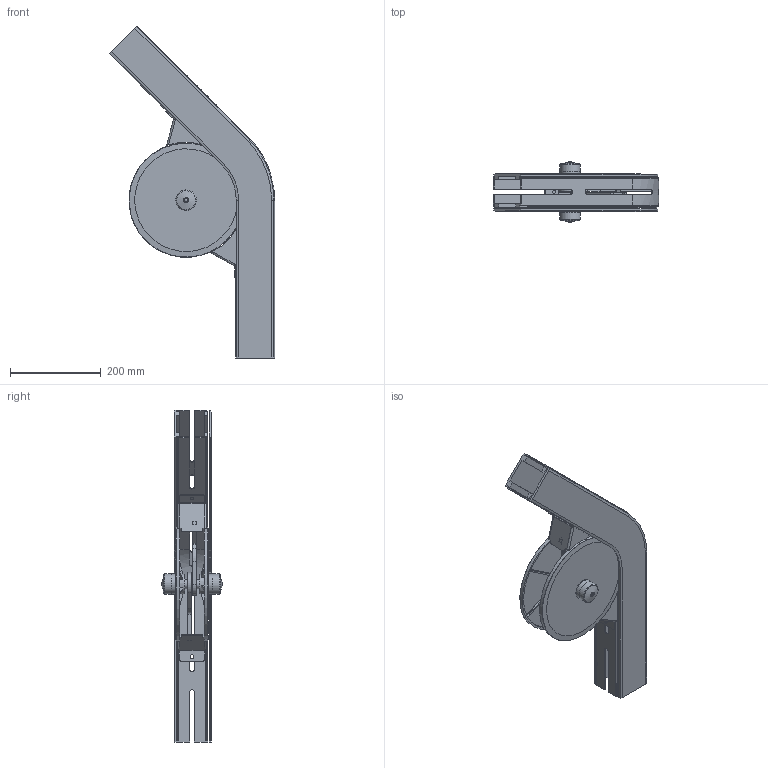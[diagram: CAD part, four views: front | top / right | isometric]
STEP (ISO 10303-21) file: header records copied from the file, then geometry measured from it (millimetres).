
FILE_DESCRIPTION(/* description */ ('WHEELCURVE 45° SERIE 530'),/* implementation_level */ '2;1');
FILE_NAME(/* name */ '530-5025-45.stp',/* time_stamp */ '2022-09-21T15:19:20+02:00',/* author */ ('ML'),/* organization */ ('CARRYLINE'),/* preprocessor_version */ 'ST-DEVELOPER v19.2',/* originating_system */ 'Autodesk Inventor 2023',/* authorisation */ '');
FILE_SCHEMA (('AUTOMOTIVE_DESIGN { 1 0 10303 214 3 1 1 }'));
Length unit declared in the file: millimetre
Products named in the file (8): 530-5025-45; 530-5375+830-2000-01; 14261_3; 14261_29; 14261_30; 14261_31; 830-5027_1; 830-5031
Assembly tree (10 placements, depth 2):
  530-5025-45
    530-5375+830-2000-01
    14261_3
    14261_29
    14261_30
    14261_31  x2
    830-5027_1  x2
    830-5031  x2
Bounding box: 364 x 135.92 x 731.96 mm (x, y, z)
Volume: 1912658.7 mm3; surface area: 938707.2 mm2
Topology: 11 solids, 11 shells, 586 faces, 1545 edges, 996 vertices
Faces by surface type: plane 297, cylinder 161, bspline 56, torus 38, cone 30, sphere 4
Full cylindrical faces by diameter (mm): 4.917 x8, 6.2 x8, 8.5 x2, 16.2 x2, 17 x4, 20 x4, 30 x3, 34.8 x4, 41.3 x2, 45 x2, 252 x2
Entity records: 15508 total; most frequent: CARTESIAN_POINT 4506, ORIENTED_EDGE 2280, DIRECTION 2118, EDGE_CURVE 1140, VERTEX_POINT 740, AXIS2_PLACEMENT_3D 723, LINE 672, VECTOR 672
